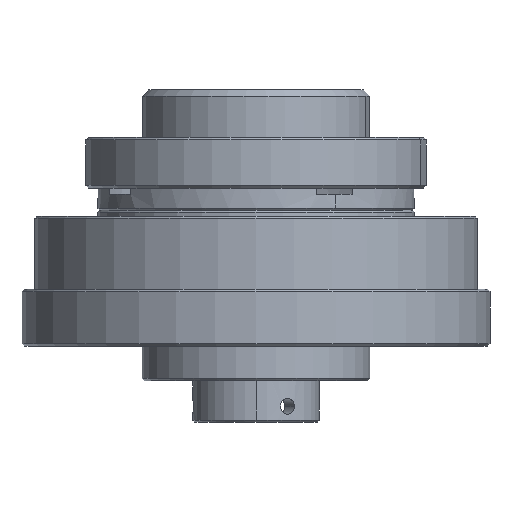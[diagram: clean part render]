
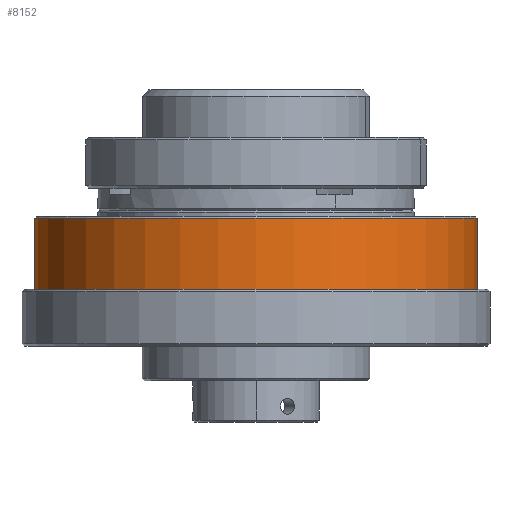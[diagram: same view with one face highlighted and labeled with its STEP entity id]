
A CAD part, front view. The second image highlights one B-rep face of the part: STEP entity #8152.
In plain terms, the highlighted cylindrical face has radius 35 mm (diameter 70 mm), a partial arc.
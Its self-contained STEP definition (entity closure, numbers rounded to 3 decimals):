
#22 = DIRECTION ( 'NONE',  ( 1., 0., 0. ) ) ;
#133 = CARTESIAN_POINT ( 'NONE',  ( 38.853, 0.395, 76.25 ) ) ;
#155 = CARTESIAN_POINT ( 'NONE',  ( 38.853, 0.395, 62.75 ) ) ;
#257 = EDGE_CURVE ( 'NONE', #1533, #787, #6168, .T. ) ;
#393 = CARTESIAN_POINT ( 'NONE',  ( 3.853, 0.395, 76.55 ) ) ;
#449 = CARTESIAN_POINT ( 'NONE',  ( -31.147, 0.395, 76.55 ) ) ;
#573 = DIRECTION ( 'NONE',  ( 0., 0., -1. ) ) ;
#595 = DIRECTION ( 'NONE',  ( -1., 0., 0. ) ) ;
#787 = VERTEX_POINT ( 'NONE', #1170 ) ;
#794 = VERTEX_POINT ( 'NONE', #155 ) ;
#1075 = FACE_OUTER_BOUND ( 'NONE', #7889, .T. ) ;
#1170 = CARTESIAN_POINT ( 'NONE',  ( -31.147, 0.395, 76.25 ) ) ;
#1467 = EDGE_CURVE ( 'NONE', #1533, #794, #3258, .T. ) ;
#1493 = DIRECTION ( 'NONE',  ( 0., 0., -1. ) ) ;
#1533 = VERTEX_POINT ( 'NONE', #133 ) ;
#1643 = AXIS2_PLACEMENT_3D ( 'NONE', #2504, #2765, #2992 ) ;
#2160 = ORIENTED_EDGE ( 'NONE', *, *, #2622, .T. ) ;
#2392 = DIRECTION ( 'NONE',  ( 0., 0., -1. ) ) ;
#2452 = CARTESIAN_POINT ( 'NONE',  ( -31.147, 0.395, 62.75 ) ) ;
#2504 = CARTESIAN_POINT ( 'NONE',  ( 3.853, 0.395, 62.75 ) ) ;
#2622 = EDGE_CURVE ( 'NONE', #787, #5024, #3361, .T. ) ;
#2636 = CIRCLE ( 'NONE', #1643, 35. ) ;
#2642 = EDGE_CURVE ( 'NONE', #5024, #794, #2636, .T. ) ;
#2765 = DIRECTION ( 'NONE',  ( 0., 0., 1. ) ) ;
#2992 = DIRECTION ( 'NONE',  ( 1., 0., 0. ) ) ;
#3196 = CYLINDRICAL_SURFACE ( 'NONE', #6384, 35. ) ;
#3258 = LINE ( 'NONE', #7242, #6633 ) ;
#3361 = LINE ( 'NONE', #449, #4269 ) ;
#4269 = VECTOR ( 'NONE', #1493, 1000. ) ;
#4508 = CARTESIAN_POINT ( 'NONE',  ( 3.853, 0.395, 76.25 ) ) ;
#4861 = ORIENTED_EDGE ( 'NONE', *, *, #2642, .T. ) ;
#5024 = VERTEX_POINT ( 'NONE', #2452 ) ;
#6168 = CIRCLE ( 'NONE', #7994, 35. ) ;
#6384 = AXIS2_PLACEMENT_3D ( 'NONE', #393, #573, #595 ) ;
#6633 = VECTOR ( 'NONE', #7116, 1000. ) ;
#6748 = ORIENTED_EDGE ( 'NONE', *, *, #1467, .F. ) ;
#7116 = DIRECTION ( 'NONE',  ( 0., 0., -1. ) ) ;
#7242 = CARTESIAN_POINT ( 'NONE',  ( 38.853, 0.395, 76.55 ) ) ;
#7701 = ORIENTED_EDGE ( 'NONE', *, *, #257, .T. ) ;
#7889 = EDGE_LOOP ( 'NONE', ( #6748, #7701, #2160, #4861 ) ) ;
#7994 = AXIS2_PLACEMENT_3D ( 'NONE', #4508, #2392, #22 ) ;
#8152 = ADVANCED_FACE ( 'NONE', ( #1075 ), #3196, .T. ) ;
